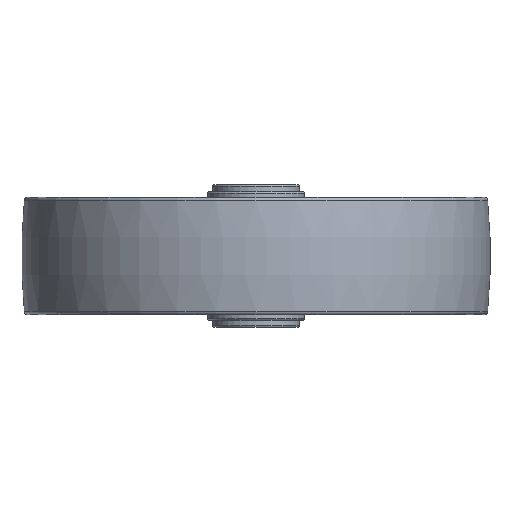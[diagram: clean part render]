
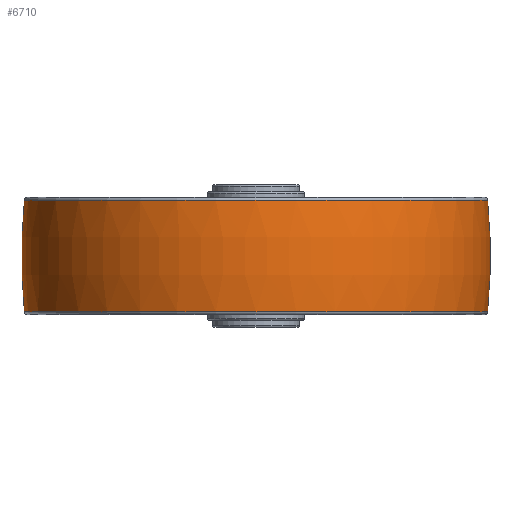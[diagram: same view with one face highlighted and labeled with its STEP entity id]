
A CAD part, front view. The second image highlights one B-rep face of the part: STEP entity #6710.
In plain terms, the highlighted toroidal (fillet/blend) face has major radius 152.4 mm and minor radius 254 mm.
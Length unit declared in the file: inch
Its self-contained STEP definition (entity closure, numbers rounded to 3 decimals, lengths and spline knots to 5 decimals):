
#586 = ORIENTED_EDGE ( 'NONE', *, *, #13748, .T. ) ;
#951 = CARTESIAN_POINT ( 'NONE',  ( 6., 0., 0. ) ) ;
#1083 = CIRCLE ( 'NONE', #1921, 3.95432 ) ;
#1517 = VERTEX_POINT ( 'NONE', #6302 ) ;
#1701 = CARTESIAN_POINT ( 'NONE',  ( -3.95432, 0., 0.95477 ) ) ;
#1921 = AXIS2_PLACEMENT_3D ( 'NONE', #18444, #5986, #18641 ) ;
#2517 = DIRECTION ( 'NONE',  ( -1., 0., 0. ) ) ;
#2536 = AXIS2_PLACEMENT_3D ( 'NONE', #6322, #14007, #18638 ) ;
#3252 = EDGE_CURVE ( 'NONE', #10125, #19520, #5112, .T. ) ;
#3594 = CARTESIAN_POINT ( 'NONE',  ( -6., 0., 0. ) ) ;
#3870 = CIRCLE ( 'NONE', #8677, 10. ) ;
#4162 = EDGE_CURVE ( 'NONE', #10125, #5510, #10655, .T. ) ;
#4430 = EDGE_CURVE ( 'NONE', #1517, #5510, #1083, .T. ) ;
#5112 = CIRCLE ( 'NONE', #2536, 3.95432 ) ;
#5308 = DIRECTION ( 'NONE',  ( 0., -1., 0. ) ) ;
#5510 = VERTEX_POINT ( 'NONE', #1701 ) ;
#5986 = DIRECTION ( 'NONE',  ( 0., 0., -1. ) ) ;
#6031 = AXIS2_PLACEMENT_3D ( 'NONE', #10443, #16604, #19778 ) ;
#6302 = CARTESIAN_POINT ( 'NONE',  ( 3.95432, 0., 0.95477 ) ) ;
#6322 = CARTESIAN_POINT ( 'NONE',  ( 0., 0., -0.95477 ) ) ;
#6710 = ADVANCED_FACE ( 'NONE', ( #11694 ), #8708, .T. ) ;
#7019 = ORIENTED_EDGE ( 'NONE', *, *, #4162, .F. ) ;
#7176 = ORIENTED_EDGE ( 'NONE', *, *, #4430, .T. ) ;
#8677 = AXIS2_PLACEMENT_3D ( 'NONE', #3594, #5308, #16243 ) ;
#8708 = TOROIDAL_SURFACE ( 'NONE', #6031, -6., 10. ) ;
#9274 = ORIENTED_EDGE ( 'NONE', *, *, #3252, .T. ) ;
#9637 = AXIS2_PLACEMENT_3D ( 'NONE', #951, #11907, #2517 ) ;
#10125 = VERTEX_POINT ( 'NONE', #18701 ) ;
#10443 = CARTESIAN_POINT ( 'NONE',  ( 0., 0., 0. ) ) ;
#10655 = CIRCLE ( 'NONE', #9637, 10. ) ;
#11694 = FACE_OUTER_BOUND ( 'NONE', #13701, .T. ) ;
#11907 = DIRECTION ( 'NONE',  ( 0., 1., 0. ) ) ;
#13701 = EDGE_LOOP ( 'NONE', ( #7019, #9274, #586, #7176 ) ) ;
#13748 = EDGE_CURVE ( 'NONE', #19520, #1517, #3870, .T. ) ;
#14007 = DIRECTION ( 'NONE',  ( 0., 0., 1. ) ) ;
#16243 = DIRECTION ( 'NONE',  ( 0., 0., -1. ) ) ;
#16391 = CARTESIAN_POINT ( 'NONE',  ( 3.95432, 0., -0.95477 ) ) ;
#16604 = DIRECTION ( 'NONE',  ( 0., 0., 1. ) ) ;
#18444 = CARTESIAN_POINT ( 'NONE',  ( 0., 0., 0.95477 ) ) ;
#18638 = DIRECTION ( 'NONE',  ( 1., 0., 0. ) ) ;
#18641 = DIRECTION ( 'NONE',  ( -1., 0., 0. ) ) ;
#18701 = CARTESIAN_POINT ( 'NONE',  ( -3.95432, 0., -0.95477 ) ) ;
#19520 = VERTEX_POINT ( 'NONE', #16391 ) ;
#19778 = DIRECTION ( 'NONE',  ( 1., 0., 0. ) ) ;
